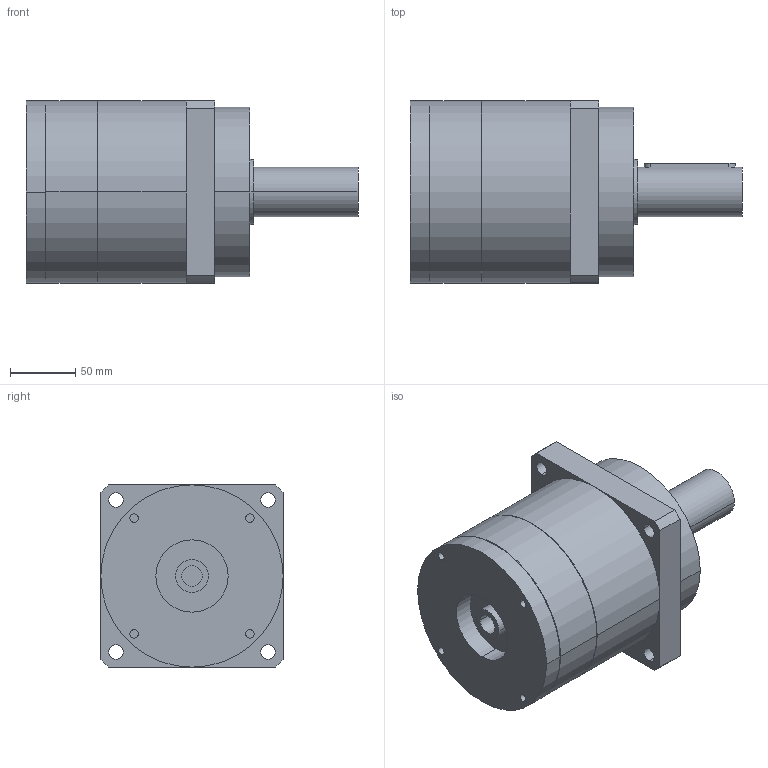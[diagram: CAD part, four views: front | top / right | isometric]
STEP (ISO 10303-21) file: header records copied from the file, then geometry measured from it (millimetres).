
FILE_DESCRIPTION(('CoCreate Modeling STEP Export'),'2;1');
FILE_NAME('GPR150_ig-3-4-5-7_38_B5_15.87_P01.stp','2014-08-19T16:41:28',(''),(''),'CoCreate Modeling STEP processor for AP214 (Solid Model)','CoCreate Modeling 16.00C 25-Feb-2009 (C) Parametric Technology GmbH','');
FILE_SCHEMA(('AUTOMOTIVE_DESIGN { 1 0 10303 214 1 1 1 1 }'));
Length unit declared in the file: millimetre
Products named in the file (2): GPR150_ig-3-4-5-7_38_B5_15.87_P01
Assembly tree (1 placements, depth 2):
  GPR150_ig-3-4-5-7_38_B5_15.87_P01
    GPR150_ig-3-4-5-7_38_B5_15.87_P01
Bounding box: 255 x 140 x 140 mm (x, y, z)
Volume: 2727479 mm3; surface area: 137172.1 mm2
Topology: 1 solids, 1 shells, 85 faces, 216 edges, 148 vertices
Faces by surface type: cylinder 50, plane 29, cone 6
Entity records: 2257 total; most frequent: ORIENTED_EDGE 428, CARTESIAN_POINT 415, DIRECTION 312, EDGE_CURVE 214, VERTEX_POINT 148, AXIS2_PLACEMENT_3D 117, EDGE_LOOP 110, FACE_OUTER_BOUND 85
